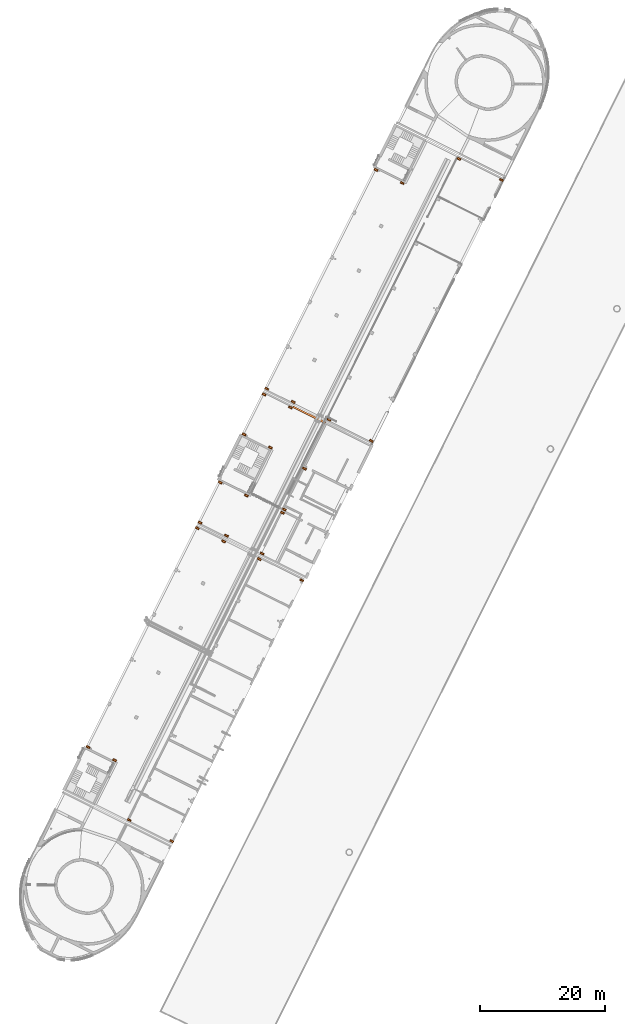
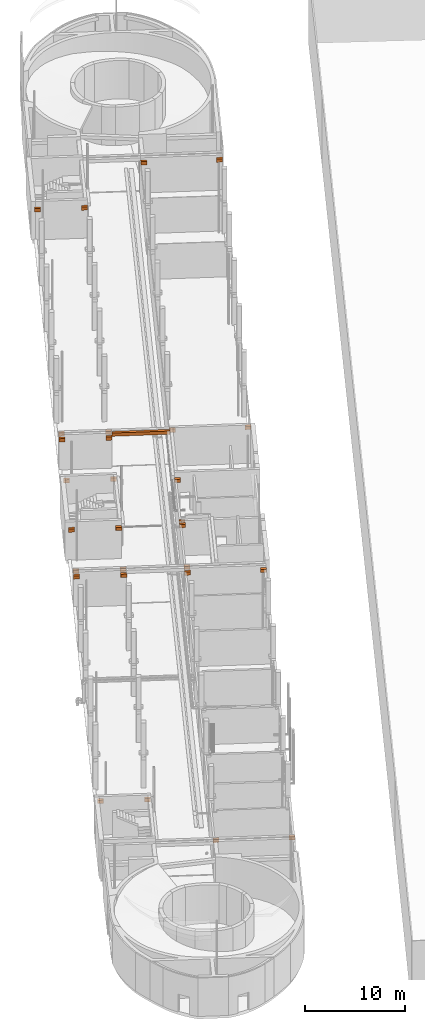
# One storey, part 91 of 91: 29 proxies.
"""IFC2X3 building model written with IfcOpenShell, lengths in metres."""

from ifc_helpers import new_model, entity, si_unit, converted_unit, derived_unit, direction, frame, frame_2d, origin, place, context, subcontext, project, spatial, rectangle, extrude, faceted_brep, source, transform, mapped, material, element, save


model = new_model("IFC2X3")

# Units and contexts
model_context = context("Model", 3, precision=1e-05, world=origin(), true_north=direction((0.894925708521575, 0.446215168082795)))
context_of_model = context(None, 3, precision=1e-05, world=origin(), true_north=direction((0.894925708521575, 0.446215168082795)))
body_context = subcontext(model_context, "Body", "Model", "MODEL_VIEW")
ifc_project = project(units=[si_unit("LENGTHUNIT", "METRE"), si_unit("AREAUNIT", "SQUARE_METRE"), si_unit("VOLUMEUNIT", "CUBIC_METRE"), converted_unit("PLANEANGLEUNIT", "DEGREE", entity("IfcRatioMeasure", 0.0174532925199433), si_unit("PLANEANGLEUNIT", "RADIAN"), dimensions=[0, 0, 0, 0, 0, 0, 0]), si_unit("MASSUNIT", "GRAM", prefix="KILO"), si_unit("TIMEUNIT", "SECOND"), si_unit("FREQUENCYUNIT", "HERTZ"), si_unit("THERMODYNAMICTEMPERATUREUNIT", "DEGREE_CELSIUS"), derived_unit("THERMALTRANSMITTANCEUNIT", [(si_unit("MASSUNIT", "GRAM", prefix="KILO"), 1), (si_unit("THERMODYNAMICTEMPERATUREUNIT", "KELVIN"), -1), (si_unit("TIMEUNIT", "SECOND"), -3)]), derived_unit("VOLUMETRICFLOWRATEUNIT", [(si_unit("LENGTHUNIT", "METRE"), 3), (si_unit("TIMEUNIT", "SECOND"), -1)]), si_unit("ELECTRICCURRENTUNIT", "AMPERE"), si_unit("ELECTRICVOLTAGEUNIT", "VOLT"), si_unit("POWERUNIT", "WATT"), si_unit("FORCEUNIT", "NEWTON", prefix="KILO"), si_unit("ILLUMINANCEUNIT", "LUX"), si_unit("LUMINOUSFLUXUNIT", "LUMEN"), si_unit("LUMINOUSINTENSITYUNIT", "CANDELA"), si_unit("PRESSUREUNIT", "PASCAL")], contexts=[model_context, context_of_model])

# Site, building, storey
site_placement = place(None, frame((218.228324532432, 584.720189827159, 0.0), z_axis=(0.0, 0.0, 1.0), x_axis=(0.446215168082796, 0.894925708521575, 0.0)))
site = spatial("IfcSite", under=ifc_project, at=site_placement, Name="Default", CompositionType="ELEMENT")
building_placement = place(site_placement, origin())
building = spatial("IfcBuilding", under=site, at=building_placement, CompositionType="ELEMENT")
storey_placement = place(building_placement, origin())
storey = spatial("IfcBuildingStorey", under=building, at=storey_placement, Name="0 - Piano Terra", CompositionType="ELEMENT", Elevation=0.0)

# Proxies
ifc_material = material(Name="Calcestruzzo, gettato in opera")
shared_shape_1 = source(origin(), body_context, "Body", "SweptSolid", [
    extrude(rectangle(XDim=0.300000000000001, YDim=0.6, at=frame_2d((0.0, 5.27355936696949e-16), x_axis=(1.0, 0.0))), frame((0.150000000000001, 0.300000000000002, 0.0), z_axis=(0.0, 0.0, 1.0), x_axis=(-1.0, 0.0, 0.0)), (0.0, 0.0, 1.0), 0.4),
])
proxy_1_placement = place(storey_placement, frame((-52.6994493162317, 5.51892100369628, 3.63)))
element("IfcBuildingElementProxy", 1, at=proxy_1_placement, inside=storey, material=ifc_material, Name="Mensola C.A.:Mensola C.A.", ObjectType="Mensola C.A.", CompositionType="ELEMENT", context=body_context, shape_type="MappedRepresentation", body=[
    mapped(shared_shape_1, transform((0.0, 0.0, 0.0), scale=1.0)),
])
shared_shape_2 = source(origin(), body_context, "Body", "SweptSolid", [
    extrude(rectangle(XDim=0.300000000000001, YDim=0.6, at=frame_2d((0.0, 5.27355936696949e-16), x_axis=(1.0, 0.0))), frame((0.150000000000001, 0.300000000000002, 0.0), z_axis=(0.0, 0.0, 1.0), x_axis=(-1.0, 0.0, 0.0)), (0.0, 0.0, 1.0), 0.4),
])
proxy_2_placement = place(storey_placement, frame((-52.6994493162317, 0.798921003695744, 3.63)))
element("IfcBuildingElementProxy", 2, at=proxy_2_placement, inside=storey, material=ifc_material, Name="Mensola C.A.1:Mensola C.A.", ObjectType="Mensola C.A.", CompositionType="ELEMENT", context=body_context, shape_type="MappedRepresentation", body=[
    mapped(shared_shape_2, transform((0.0, 0.0, 0.0), scale=1.0)),
])
shared_shape_3 = source(origin(), body_context, "Body", "SweptSolid", [
    extrude(rectangle(XDim=0.300000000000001, YDim=0.6, at=frame_2d((0.0, 5.27355936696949e-16), x_axis=(1.0, 0.0))), frame((0.150000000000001, 0.300000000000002, 0.0), z_axis=(0.0, 0.0, 1.0), x_axis=(-1.0, 0.0, 0.0)), (0.0, 0.0, 1.0), 0.4),
])
proxy_3_placement = place(storey_placement, frame((-13.4843716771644, 0.798921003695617, 3.63)))
element("IfcBuildingElementProxy", 3, at=proxy_3_placement, inside=storey, material=ifc_material, Name="Mensola C.A.2:Mensola C.A.", ObjectType="Mensola C.A.", CompositionType="ELEMENT", context=body_context, shape_type="MappedRepresentation", body=[
    mapped(shared_shape_3, transform((0.0, 0.0, 0.0), scale=1.0)),
])
shared_shape_4 = source(origin(), body_context, "Body", "SweptSolid", [
    extrude(rectangle(XDim=0.300000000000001, YDim=0.6, at=frame_2d((0.0, 5.27355936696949e-16), x_axis=(1.0, 0.0))), frame((0.150000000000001, 0.300000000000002, 0.0), z_axis=(0.0, 0.0, 1.0), x_axis=(-1.0, 0.0, 0.0)), (0.0, 0.0, 1.0), 0.4),
])
proxy_4_placement = place(storey_placement, frame((-13.4843716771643, 5.51892100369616, 3.63)))
element("IfcBuildingElementProxy", 4, at=proxy_4_placement, inside=storey, material=ifc_material, Name="Mensola C.A.3:Mensola C.A.", ObjectType="Mensola C.A.", CompositionType="ELEMENT", context=body_context, shape_type="MappedRepresentation", body=[
    mapped(shared_shape_4, transform((0.0, 0.0, 0.0), scale=1.0)),
])
shared_shape_5 = source(origin(), body_context, "Body", "SweptSolid", [
    extrude(rectangle(XDim=0.300000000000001, YDim=0.6, at=frame_2d((0.0, 5.27355936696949e-16), x_axis=(1.0, 0.0))), frame((0.150000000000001, 0.300000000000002, 0.0), z_axis=(0.0, 0.0, 1.0), x_axis=(-1.0, 0.0, 0.0)), (0.0, 0.0, 1.0), 0.4),
])
proxy_5_placement = place(storey_placement, frame((-12.4843716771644, 0.798921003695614, 3.63)))
element("IfcBuildingElementProxy", 5, at=proxy_5_placement, inside=storey, material=ifc_material, Name="Mensola C.A.4:Mensola C.A.", ObjectType="Mensola C.A.", CompositionType="ELEMENT", context=body_context, shape_type="MappedRepresentation", body=[
    mapped(shared_shape_5, transform((0.0, 0.0, 0.0), scale=1.0)),
])
shared_shape_6 = source(origin(), body_context, "Body", "SweptSolid", [
    extrude(rectangle(XDim=0.300000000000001, YDim=0.6, at=frame_2d((0.0, 5.27355936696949e-16), x_axis=(1.0, 0.0))), frame((0.150000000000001, 0.300000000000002, 0.0), z_axis=(0.0, 0.0, 1.0), x_axis=(-1.0, 0.0, 0.0)), (0.0, 0.0, 1.0), 0.4),
])
proxy_6_placement = place(storey_placement, frame((-12.4843716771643, 5.51892100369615, 3.63)))
element("IfcBuildingElementProxy", 6, at=proxy_6_placement, inside=storey, material=ifc_material, Name="Mensola C.A.5:Mensola C.A.", ObjectType="Mensola C.A.", CompositionType="ELEMENT", context=body_context, shape_type="MappedRepresentation", body=[
    mapped(shared_shape_6, transform((0.0, 0.0, 0.0), scale=1.0)),
])
shared_shape_7 = source(origin(), body_context, "Body", "SweptSolid", [
    extrude(rectangle(XDim=0.29970000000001, YDim=0.6, at=frame_2d((0.0, 5.27355936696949e-16), x_axis=(1.0, 0.0))), frame((0.149850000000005, 0.300000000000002, 0.0), z_axis=(0.0, 0.0, 1.0), x_axis=(-1.0, 0.0, 0.0)), (0.0, 0.0, 1.0), 0.4),
])
proxy_7_placement = place(storey_placement, frame((-60.2294493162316, -5.60107899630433, 3.63)))
element("IfcBuildingElementProxy", 7, at=proxy_7_placement, inside=storey, material=ifc_material, Name="Mensola C.A.6:Mensola C.A.", ObjectType="Mensola C.A.", CompositionType="ELEMENT", context=body_context, shape_type="MappedRepresentation", body=[
    mapped(shared_shape_7, transform((0.0, 0.0, 0.0), scale=1.0)),
])
shared_shape_8 = source(origin(), body_context, "Body", "SweptSolid", [
    extrude(rectangle(XDim=0.299700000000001, YDim=0.6, at=frame_2d((-4.32986979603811e-15, 5.27355936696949e-16), x_axis=(1.0, 0.0))), frame((0.149850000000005, 0.300000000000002, 0.0), z_axis=(0.0, 0.0, 1.0), x_axis=(-1.0, 0.0, 0.0)), (0.0, 0.0, 1.0), 0.4),
])
proxy_8_placement = place(storey_placement, frame((-60.2294493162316, -13.2010789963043, 3.63)))
element("IfcBuildingElementProxy", 8, at=proxy_8_placement, inside=storey, material=ifc_material, Name="Mensola C.A.7:Mensola C.A.", ObjectType="Mensola C.A.", CompositionType="ELEMENT", context=body_context, shape_type="MappedRepresentation", body=[
    mapped(shared_shape_8, transform((0.0, 0.0, 0.0), scale=1.0)),
])
shared_shape_9 = source(origin(), body_context, "Body", "SweptSolid", [
    extrude(rectangle(XDim=0.300000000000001, YDim=0.6, at=frame_2d((0.0, 5.27355936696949e-16), x_axis=(1.0, 0.0))), frame((0.150000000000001, 0.300000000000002, 0.0), z_axis=(0.0, 0.0, 1.0), x_axis=(-1.0, 0.0, 0.0)), (0.0, 0.0, 1.0), 0.4),
])
proxy_9_placement = place(storey_placement, frame((-13.4843716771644, -13.2010789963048, 3.63)))
element("IfcBuildingElementProxy", 9, at=proxy_9_placement, inside=storey, material=ifc_material, Name="Mensola C.A.8:Mensola C.A.", ObjectType="Mensola C.A.", CompositionType="ELEMENT", context=body_context, shape_type="MappedRepresentation", body=[
    mapped(shared_shape_9, transform((0.0, 0.0, 0.0), scale=1.0)),
])
shared_shape_10 = source(origin(), body_context, "Body", "SweptSolid", [
    extrude(rectangle(XDim=0.300000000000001, YDim=0.6, at=frame_2d((-1.11022302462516e-16, 0.0333333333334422), x_axis=(1.0, 0.0))), frame((0.150000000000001, 0.333333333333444, 0.0), z_axis=(0.0, 0.0, 1.0), x_axis=(-1.0, 0.0, 0.0)), (0.0, 0.0, 1.0), 0.4),
])
proxy_10_placement = place(storey_placement, frame((-13.4843716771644, -5.60107899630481, 3.63)))
element("IfcBuildingElementProxy", 10, at=proxy_10_placement, inside=storey, material=ifc_material, Name="Mensola C.A.9:Mensola C.A.", ObjectType="Mensola C.A.", CompositionType="ELEMENT", context=body_context, shape_type="MappedRepresentation", body=[
    mapped(shared_shape_10, transform((0.0, 0.0, 0.0), scale=1.0)),
])
shared_shape_11 = source(origin(), body_context, "Body", "SweptSolid", [
    extrude(rectangle(XDim=0.300000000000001, YDim=0.6, at=frame_2d((-1.11022302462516e-16, 0.0333333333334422), x_axis=(1.0, 0.0))), frame((0.150000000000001, 0.333333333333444, 0.0), z_axis=(0.0, 0.0, 1.0), x_axis=(-1.0, 0.0, 0.0)), (0.0, 0.0, 1.0), 0.4),
])
proxy_11_placement = place(storey_placement, frame((-12.4843716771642, -5.60107899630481, 3.63)))
element("IfcBuildingElementProxy", 11, at=proxy_11_placement, inside=storey, material=ifc_material, Name="Mensola C.A.10:Mensola C.A.", ObjectType="Mensola C.A.", CompositionType="ELEMENT", context=body_context, shape_type="MappedRepresentation", body=[
    mapped(shared_shape_11, transform((0.0, 0.0, 0.0), scale=1.0)),
])
shared_shape_12 = source(origin(), body_context, "Body", "SweptSolid", [
    extrude(rectangle(XDim=0.300000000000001, YDim=0.6, at=frame_2d((-1.11022302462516e-16, 0.0333333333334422), x_axis=(1.0, 0.0))), frame((0.150000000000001, 0.333333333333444, 0.0), z_axis=(0.0, 0.0, 1.0), x_axis=(-1.0, 0.0, 0.0)), (0.0, 0.0, 1.0), 0.4),
])
proxy_12_placement = place(storey_placement, frame((-4.58437167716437, -5.60107899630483, 3.63)))
element("IfcBuildingElementProxy", 12, at=proxy_12_placement, inside=storey, material=ifc_material, Name="Mensola C.A.11:Mensola C.A.", ObjectType="Mensola C.A.", CompositionType="ELEMENT", context=body_context, shape_type="MappedRepresentation", body=[
    mapped(shared_shape_12, transform((0.0, 0.0, 0.0), scale=1.0)),
])
shared_shape_13 = source(origin(), body_context, "Body", "SweptSolid", [
    extrude(rectangle(XDim=0.300000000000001, YDim=0.6, at=frame_2d((-1.11022302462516e-16, 0.0333333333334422), x_axis=(1.0, 0.0))), frame((0.150000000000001, 0.333333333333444, 0.0), z_axis=(0.0, 0.0, 1.0), x_axis=(-1.0, 0.0, 0.0)), (0.0, 0.0, 1.0), 0.4),
])
proxy_13_placement = place(storey_placement, frame((-5.18437167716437, -5.60107899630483, 3.63)))
element("IfcBuildingElementProxy", 13, at=proxy_13_placement, inside=storey, material=ifc_material, Name="Mensola C.A.12:Mensola C.A.", ObjectType="Mensola C.A.", CompositionType="ELEMENT", context=body_context, shape_type="MappedRepresentation", body=[
    mapped(shared_shape_13, transform((0.0, 0.0, 0.0), scale=1.0)),
])
shared_shape_14 = source(origin(), body_context, "Body", "SweptSolid", [
    extrude(rectangle(XDim=0.300000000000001, YDim=0.6, at=frame_2d((-1.11022302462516e-16, 0.0333333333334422), x_axis=(1.0, 0.0))), frame((0.150000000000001, 0.333333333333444, 0.0), z_axis=(0.0, 0.0, 1.0), x_axis=(-1.0, 0.0, 0.0)), (0.0, 0.0, 1.0), 0.4),
])
proxy_14_placement = place(storey_placement, frame((2.71421497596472, -5.60107899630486, 3.63)))
element("IfcBuildingElementProxy", 14, at=proxy_14_placement, inside=storey, material=ifc_material, Name="Mensola C.A.13:Mensola C.A.", ObjectType="Mensola C.A.", CompositionType="ELEMENT", context=body_context, shape_type="MappedRepresentation", body=[
    mapped(shared_shape_14, transform((0.0, 0.0, 0.0), scale=1.0)),
])
shared_shape_15 = source(origin(), body_context, "Body", "SweptSolid", [
    extrude(rectangle(XDim=0.300000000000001, YDim=0.6, at=frame_2d((0.0, 5.27355936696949e-16), x_axis=(1.0, 0.0))), frame((0.150000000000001, 0.300000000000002, 0.0), z_axis=(0.0, 0.0, 1.0), x_axis=(-1.0, 0.0, 0.0)), (0.0, 0.0, 1.0), 0.4),
])
proxy_15_placement = place(storey_placement, frame((11.4942149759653, -5.60107899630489, 3.63)))
element("IfcBuildingElementProxy", 15, at=proxy_15_placement, inside=storey, material=ifc_material, Name="Mensola C.A.14:Mensola C.A.", ObjectType="Mensola C.A.", CompositionType="ELEMENT", context=body_context, shape_type="MappedRepresentation", body=[
    mapped(shared_shape_15, transform((0.0, 0.0, 0.0), scale=1.0)),
])
shared_shape_16 = source(origin(), body_context, "Body", "SweptSolid", [
    extrude(rectangle(XDim=0.300000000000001, YDim=0.6, at=frame_2d((0.0, 5.27355936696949e-16), x_axis=(1.0, 0.0))), frame((0.150000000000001, 0.300000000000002, 0.0), z_axis=(0.0, 0.0, 1.0), x_axis=(-1.0, 0.0, 0.0)), (0.0, 0.0, 1.0), 0.4),
])
proxy_16_placement = place(storey_placement, frame((11.4942149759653, -13.2010789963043, 3.63)))
element("IfcBuildingElementProxy", 16, at=proxy_16_placement, inside=storey, material=ifc_material, Name="Mensola C.A.15:Mensola C.A.", ObjectType="Mensola C.A.", CompositionType="ELEMENT", context=body_context, shape_type="MappedRepresentation", body=[
    mapped(shared_shape_16, transform((0.0, 0.0, 0.0), scale=1.0)),
])
shared_shape_17 = source(origin(), body_context, "Body", "SweptSolid", [
    extrude(rectangle(XDim=0.300000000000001, YDim=0.6, at=frame_2d((0.0, 5.27355936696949e-16), x_axis=(1.0, 0.0))), frame((0.150000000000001, 0.300000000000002, 0.0), z_axis=(0.0, 0.0, 1.0), x_axis=(-1.0, 0.0, 0.0)), (0.0, 0.0, 1.0), 0.4),
])
proxy_17_placement = place(storey_placement, frame((-5.28578502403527, 5.51892100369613, 3.63)))
element("IfcBuildingElementProxy", 17, at=proxy_17_placement, inside=storey, material=ifc_material, Name="Mensola C.A.16:Mensola C.A.", ObjectType="Mensola C.A.", CompositionType="ELEMENT", context=body_context, shape_type="MappedRepresentation", body=[
    mapped(shared_shape_17, transform((0.0, 0.0, 0.0), scale=1.0)),
])
shared_shape_18 = source(origin(), body_context, "Body", "SweptSolid", [
    extrude(rectangle(XDim=0.300000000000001, YDim=0.6, at=frame_2d((0.0, 5.27355936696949e-16), x_axis=(1.0, 0.0))), frame((0.150000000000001, 0.300000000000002, 0.0), z_axis=(0.0, 0.0, 1.0), x_axis=(-1.0, 0.0, 0.0)), (0.0, 0.0, 1.0), 0.4),
])
proxy_18_placement = place(storey_placement, frame((-5.28578502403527, 0.798921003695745, 3.63)))
element("IfcBuildingElementProxy", 18, at=proxy_18_placement, inside=storey, material=ifc_material, Name="Mensola C.A.17:Mensola C.A.", ObjectType="Mensola C.A.", CompositionType="ELEMENT", context=body_context, shape_type="MappedRepresentation", body=[
    mapped(shared_shape_18, transform((0.0, 0.0, 0.0), scale=1.0)),
])
shared_shape_19 = source(origin(), body_context, "Body", "SweptSolid", [
    extrude(rectangle(XDim=0.300000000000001, YDim=0.6, at=frame_2d((0.0, 5.27355936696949e-16), x_axis=(1.0, 0.0))), frame((0.150000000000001, 0.300000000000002, 0.0), z_axis=(0.0, 0.0, 1.0), x_axis=(-1.0, 0.0, 0.0)), (0.0, 0.0, 1.0), 0.4),
])
proxy_19_placement = place(storey_placement, frame((3.314214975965, 5.5189210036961, 3.63)))
element("IfcBuildingElementProxy", 19, at=proxy_19_placement, inside=storey, material=ifc_material, Name="Mensola C.A.18:Mensola C.A.", ObjectType="Mensola C.A.", CompositionType="ELEMENT", context=body_context, shape_type="MappedRepresentation", body=[
    mapped(shared_shape_19, transform((0.0, 0.0, 0.0), scale=1.0)),
])
shared_shape_20 = source(origin(), body_context, "Body", "SweptSolid", [
    extrude(rectangle(XDim=0.300000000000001, YDim=0.6, at=frame_2d((0.0, 5.27355936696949e-16), x_axis=(1.0, 0.0))), frame((0.150000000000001, 0.300000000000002, 0.0), z_axis=(0.0, 0.0, 1.0), x_axis=(-1.0, 0.0, 0.0)), (0.0, 0.0, 1.0), 0.4),
])
proxy_20_placement = place(storey_placement, frame((3.31421497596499, 0.798921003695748, 3.63)))
element("IfcBuildingElementProxy", 20, at=proxy_20_placement, inside=storey, material=ifc_material, Name="Mensola C.A.19:Mensola C.A.", ObjectType="Mensola C.A.", CompositionType="ELEMENT", context=body_context, shape_type="MappedRepresentation", body=[
    mapped(shared_shape_20, transform((0.0, 0.0, 0.0), scale=1.0)),
])
shared_shape_21 = source(origin(), body_context, "Body", "SweptSolid", [
    extrude(rectangle(XDim=0.300000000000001, YDim=0.6, at=frame_2d((0.0, 5.27355936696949e-16), x_axis=(1.0, 0.0))), frame((0.150000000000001, 0.300000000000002, 0.0), z_axis=(0.0, 0.0, 1.0), x_axis=(-1.0, 0.0, 0.0)), (0.0, 0.0, 1.0), 0.4),
])
proxy_21_placement = place(storey_placement, frame((11.4942149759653, 5.51892100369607, 3.63)))
element("IfcBuildingElementProxy", 21, at=proxy_21_placement, inside=storey, material=ifc_material, Name="Mensola C.A.20:Mensola C.A.", ObjectType="Mensola C.A.", CompositionType="ELEMENT", context=body_context, shape_type="MappedRepresentation", body=[
    mapped(shared_shape_21, transform((0.0, 0.0, 0.0), scale=1.0)),
])
shared_shape_22 = source(origin(), body_context, "Body", "SweptSolid", [
    extrude(rectangle(XDim=0.300000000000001, YDim=0.6, at=frame_2d((0.0, 5.27355936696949e-16), x_axis=(1.0, 0.0))), frame((0.150000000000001, 0.300000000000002, 0.0), z_axis=(0.0, 0.0, 1.0), x_axis=(-1.0, 0.0, 0.0)), (0.0, 0.0, 1.0), 0.4),
])
proxy_22_placement = place(storey_placement, frame((10.4942149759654, 5.51892100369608, 3.63)))
element("IfcBuildingElementProxy", 22, at=proxy_22_placement, inside=storey, material=ifc_material, Name="Mensola C.A.21:Mensola C.A.", ObjectType="Mensola C.A.", CompositionType="ELEMENT", context=body_context, shape_type="MappedRepresentation", body=[
    mapped(shared_shape_22, transform((0.0, 0.0, 0.0), scale=1.0)),
])
shared_shape_23 = source(origin(), body_context, "Body", "SweptSolid", [
    extrude(rectangle(XDim=0.300000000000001, YDim=0.6, at=frame_2d((0.0, 5.27355936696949e-16), x_axis=(1.0, 0.0))), frame((0.150000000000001, 0.300000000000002, 0.0), z_axis=(0.0, 0.0, 1.0), x_axis=(-1.0, 0.0, 0.0)), (0.0, 0.0, 1.0), 0.4),
])
proxy_23_placement = place(storey_placement, frame((11.4942149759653, 0.798921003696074, 3.63)))
element("IfcBuildingElementProxy", 23, at=proxy_23_placement, inside=storey, material=ifc_material, Name="Mensola C.A.22:Mensola C.A.", ObjectType="Mensola C.A.", CompositionType="ELEMENT", context=body_context, shape_type="MappedRepresentation", body=[
    mapped(shared_shape_23, transform((0.0, 0.0, 0.0), scale=1.0)),
])
shared_shape_24 = source(origin(), body_context, "Body", "SweptSolid", [
    extrude(rectangle(XDim=0.300000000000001, YDim=0.6, at=frame_2d((0.0, 5.27355936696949e-16), x_axis=(1.0, 0.0))), frame((0.150000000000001, 0.300000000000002, 0.0), z_axis=(0.0, 0.0, 1.0), x_axis=(-1.0, 0.0, 0.0)), (0.0, 0.0, 1.0), 0.4),
])
proxy_24_placement = place(storey_placement, frame((10.4942149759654, 0.798921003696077, 3.63)))
element("IfcBuildingElementProxy", 24, at=proxy_24_placement, inside=storey, material=ifc_material, Name="Mensola C.A.23:Mensola C.A.", ObjectType="Mensola C.A.", CompositionType="ELEMENT", context=body_context, shape_type="MappedRepresentation", body=[
    mapped(shared_shape_24, transform((0.0, 0.0, 0.0), scale=1.0)),
])
shared_shape_25 = source(origin(), body_context, "Body", "SweptSolid", [
    extrude(rectangle(XDim=0.300000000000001, YDim=0.6, at=frame_2d((0.0, 5.27355936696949e-16), x_axis=(1.0, 0.0))), frame((0.150000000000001, 0.300000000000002, 0.0), z_axis=(0.0, 0.0, 1.0), x_axis=(-1.0, 0.0, 0.0)), (0.0, 0.0, 1.0), 0.4),
])
proxy_25_placement = place(storey_placement, frame((58.2359369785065, -5.60107899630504, 3.63)))
element("IfcBuildingElementProxy", 25, at=proxy_25_placement, inside=storey, material=ifc_material, Name="Mensola C.A.26:Mensola C.A.", ObjectType="Mensola C.A.", CompositionType="ELEMENT", context=body_context, shape_type="MappedRepresentation", body=[
    mapped(shared_shape_25, transform((0.0, 0.0, 0.0), scale=1.0)),
])
shared_shape_26 = source(origin(), body_context, "Body", "SweptSolid", [
    extrude(rectangle(XDim=0.300000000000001, YDim=0.6, at=frame_2d((0.0, 5.27355936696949e-16), x_axis=(1.0, 0.0))), frame((0.150000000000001, 0.300000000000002, 0.0), z_axis=(0.0, 0.0, 1.0), x_axis=(-1.0, 0.0, 0.0)), (0.0, 0.0, 1.0), 0.4),
])
proxy_26_placement = place(storey_placement, frame((58.2359369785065, -13.2010789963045, 3.63)))
element("IfcBuildingElementProxy", 26, at=proxy_26_placement, inside=storey, material=ifc_material, Name="Mensola C.A.27:Mensola C.A.", ObjectType="Mensola C.A.", CompositionType="ELEMENT", context=body_context, shape_type="MappedRepresentation", body=[
    mapped(shared_shape_26, transform((0.0, 0.0, 0.0), scale=1.0)),
])
shared_shape_27 = source(origin(), body_context, "Body", "SweptSolid", [
    extrude(rectangle(XDim=0.300000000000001, YDim=0.6, at=frame_2d((0.0, 5.27355936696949e-16), x_axis=(1.0, 0.0))), frame((0.150000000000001, 0.300000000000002, 0.0), z_axis=(0.0, 0.0, 1.0), x_axis=(-1.0, 0.0, 0.0)), (0.0, 0.0, 1.0), 0.4),
])
proxy_27_placement = place(storey_placement, frame((50.7059369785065, 5.51892100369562, 3.63)))
element("IfcBuildingElementProxy", 27, at=proxy_27_placement, inside=storey, material=ifc_material, Name="Mensola C.A.28:Mensola C.A.", ObjectType="Mensola C.A.", CompositionType="ELEMENT", context=body_context, shape_type="MappedRepresentation", body=[
    mapped(shared_shape_27, transform((0.0, 0.0, 0.0), scale=1.0)),
])
shared_shape_28 = source(origin(), body_context, "Body", "SweptSolid", [
    extrude(rectangle(XDim=0.300000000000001, YDim=0.6, at=frame_2d((0.0, 5.27355936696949e-16), x_axis=(1.0, 0.0))), frame((0.150000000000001, 0.300000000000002, 0.0), z_axis=(0.0, 0.0, 1.0), x_axis=(-1.0, 0.0, 0.0)), (0.0, 0.0, 1.0), 0.4),
])
proxy_28_placement = place(storey_placement, frame((50.7059369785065, 0.798921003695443, 3.63)))
element("IfcBuildingElementProxy", 28, at=proxy_28_placement, inside=storey, material=ifc_material, Name="Mensola C.A.29:Mensola C.A.", ObjectType="Mensola C.A.", CompositionType="ELEMENT", context=body_context, shape_type="MappedRepresentation", body=[
    mapped(shared_shape_28, transform((0.0, 0.0, 0.0), scale=1.0)),
])
shared_shape_29 = source(origin(), body_context, "Body", "Brep", [
    faceted_brep([(0.0, 0.0, 0.4), (0.300000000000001, 0.0, 0.4), (0.300000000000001, 5.80000000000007, 0.4), (0.0142745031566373, 5.80000000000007, 0.4), (0.0142745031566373, 5.6500000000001, 0.4), (0.0, 5.6500000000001, 0.4), (0.0, 0.0, 0.0), (0.0, 5.80000000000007, 0.0), (0.300000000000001, 5.80000000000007, 0.0), (0.300000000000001, 0.0, 0.0), (0.0, 5.80000000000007, 0.139999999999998), (0.0142745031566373, 5.80000000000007, 0.139999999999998), (0.0, 5.6500000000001, 0.139999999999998), (0.0142745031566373, 5.6500000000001, 0.139999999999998)], [[[0, 1, 2, 3, 4, 5]], [[6, 7, 8, 9]], [[1, 0, 6, 9]], [[2, 1, 9, 8]], [[8, 7, 10, 11, 3, 2]], [[7, 6, 0, 5, 12, 10]], [[13, 4, 3, 11]], [[4, 13, 12, 5]], [[13, 11, 10, 12]]]),
])
proxy_29_placement = place(storey_placement, frame((10.7942149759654, -5.00107899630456, 3.89)))
element("IfcBuildingElementProxy", 29, at=proxy_29_placement, inside=storey, material=ifc_material, Name="Trave setto4:Trave setto", ObjectType="Trave setto", CompositionType="ELEMENT", context=body_context, shape_type="MappedRepresentation", body=[
    mapped(shared_shape_29, transform((0.0, 0.0, 0.0), scale=1.0)),
])

save(model, "model.ifc")
